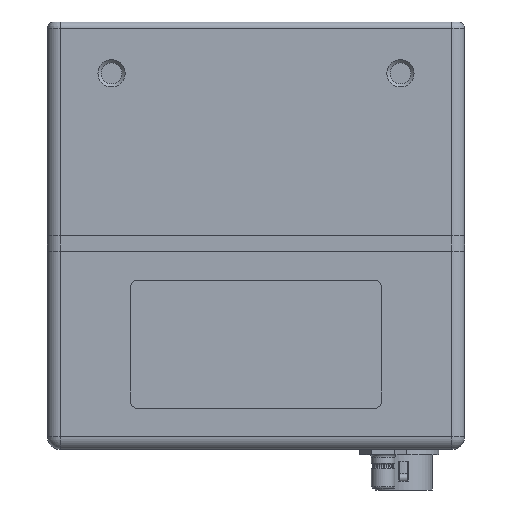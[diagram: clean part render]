
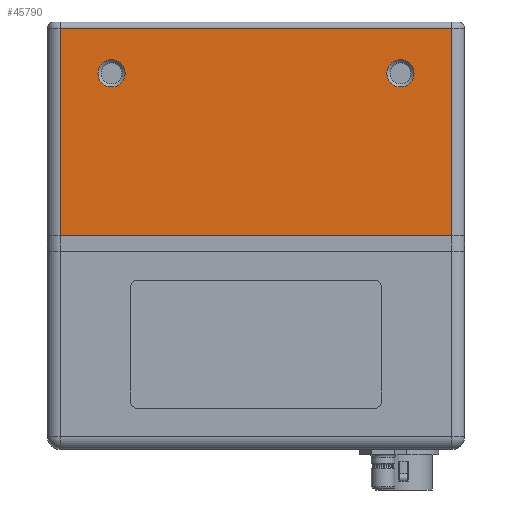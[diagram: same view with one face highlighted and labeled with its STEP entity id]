
A CAD part, front view. The second image highlights one B-rep face of the part: STEP entity #45790.
In plain terms, the highlighted planar face has unit normal (0, -1, 0).
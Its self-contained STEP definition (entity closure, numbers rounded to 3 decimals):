
#2142=FACE_BOUND('',#7682,.T.);
#2143=FACE_BOUND('',#7683,.T.);
#3096=PLANE('',#49092);
#5052=FACE_OUTER_BOUND('',#7681,.T.);
#7681=EDGE_LOOP('',(#36979,#36980,#36981,#36982));
#7682=EDGE_LOOP('',(#36983));
#7683=EDGE_LOOP('',(#36984));
#10977=LINE('',#87196,#14825);
#11033=LINE('',#87398,#14881);
#11042=LINE('',#87461,#14890);
#11044=LINE('',#87464,#14892);
#14825=VECTOR('',#57064,10.);
#14881=VECTOR('',#57286,10.);
#14890=VECTOR('',#57327,10.);
#14892=VECTOR('',#57331,10.);
#17330=CIRCLE('',#49088,2.121);
#17333=CIRCLE('',#49093,2.121);
#20409=VERTEX_POINT('',#87190);
#20410=VERTEX_POINT('',#87195);
#20453=VERTEX_POINT('',#87396);
#20463=VERTEX_POINT('',#87458);
#20531=VERTEX_POINT('',#87734);
#20534=VERTEX_POINT('',#87744);
#26137=EDGE_CURVE('',#20409,#20410,#10977,.T.);
#26228=EDGE_CURVE('',#20453,#20409,#11033,.T.);
#26248=EDGE_CURVE('',#20463,#20453,#11042,.T.);
#26250=EDGE_CURVE('',#20410,#20463,#11044,.T.);
#26378=EDGE_CURVE('',#20531,#20531,#17330,.T.);
#26382=EDGE_CURVE('',#20534,#20534,#17333,.T.);
#36979=ORIENTED_EDGE('',*,*,#26250,.F.);
#36980=ORIENTED_EDGE('',*,*,#26137,.F.);
#36981=ORIENTED_EDGE('',*,*,#26228,.F.);
#36982=ORIENTED_EDGE('',*,*,#26248,.F.);
#36983=ORIENTED_EDGE('',*,*,#26378,.F.);
#36984=ORIENTED_EDGE('',*,*,#26382,.F.);
#45790=ADVANCED_FACE('',(#5052,#2142,#2143),#3096,.T.);
#49088=AXIS2_PLACEMENT_3D('',#87736,#57647,#57648);
#49092=AXIS2_PLACEMENT_3D('',#87743,#57656,#57657);
#49093=AXIS2_PLACEMENT_3D('',#87745,#57658,#57659);
#57064=DIRECTION('',(-1.,0.,0.));
#57286=DIRECTION('',(0.,0.,-1.));
#57327=DIRECTION('',(1.,0.,0.));
#57331=DIRECTION('',(0.,0.,1.));
#57647=DIRECTION('center_axis',(0.,-1.,0.));
#57648=DIRECTION('ref_axis',(-1.,0.,0.));
#57656=DIRECTION('center_axis',(0.,-1.,0.));
#57657=DIRECTION('ref_axis',(1.,0.,0.));
#57658=DIRECTION('center_axis',(0.,-1.,0.));
#57659=DIRECTION('ref_axis',(-1.,0.,0.));
#87190=CARTESIAN_POINT('',(30.5,-32.5,0.));
#87195=CARTESIAN_POINT('',(-30.5,-32.5,0.));
#87196=CARTESIAN_POINT('',(15.25,-32.5,0.));
#87396=CARTESIAN_POINT('',(30.5,-32.5,32.3));
#87398=CARTESIAN_POINT('',(30.5,-32.5,0.));
#87458=CARTESIAN_POINT('',(-30.5,-32.5,32.3));
#87461=CARTESIAN_POINT('',(-16.25,-32.5,32.3));
#87464=CARTESIAN_POINT('',(-30.5,-32.5,0.));
#87734=CARTESIAN_POINT('',(24.621,-32.5,25.3));
#87736=CARTESIAN_POINT('Origin',(22.5,-32.5,25.3));
#87743=CARTESIAN_POINT('Origin',(-32.5,-32.5,0.));
#87744=CARTESIAN_POINT('',(-20.379,-32.5,25.3));
#87745=CARTESIAN_POINT('Origin',(-22.5,-32.5,25.3));
